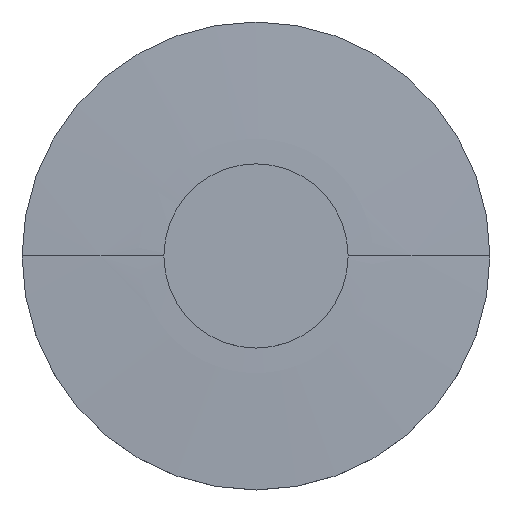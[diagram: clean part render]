
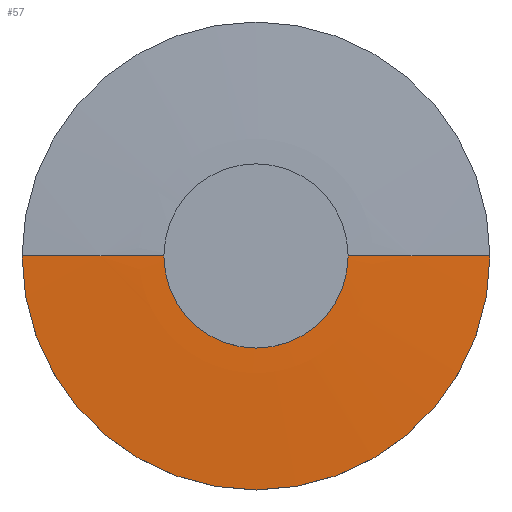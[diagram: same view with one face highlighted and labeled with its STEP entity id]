
A CAD part, top view. The second image highlights one B-rep face of the part: STEP entity #57.
In plain terms, the highlighted spherical face has radius 529.942 mm.
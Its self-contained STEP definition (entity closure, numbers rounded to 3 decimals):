
#57=ADVANCED_FACE('',(#71),#72,.T.);
#71=FACE_OUTER_BOUND('',#91,.T.);
#72=SPHERICAL_SURFACE('',#92,529.942);
#91=EDGE_LOOP('',(#124,#125,#126));
#92=AXIS2_PLACEMENT_3D('',#127,#128,#129);
#124=ORIENTED_EDGE('',*,*,#173,.T.);
#125=ORIENTED_EDGE('',*,*,#174,.T.);
#126=ORIENTED_EDGE('',*,*,#175,.T.);
#127=CARTESIAN_POINT('',(0.0,0.0,-522.442));
#128=DIRECTION('',(0.0,0.0,1.0));
#129=DIRECTION('',(1.0,0.0,0.0));
#173=EDGE_CURVE('',#189,#194,#195,.T.);
#174=EDGE_CURVE('',#194,#191,#196,.T.);
#175=EDGE_CURVE('',#191,#189,#197,.T.);
#189=VERTEX_POINT('',#215);
#191=VERTEX_POINT('',#218);
#194=VERTEX_POINT('',#222);
#195=CIRCLE('',#223,529.942);
#196=CIRCLE('',#224,529.942);
#197=CIRCLE('',#225,25.4);
#215=CARTESIAN_POINT('',(25.4,0.,6.891));
#218=CARTESIAN_POINT('',(-25.4,0.,6.891));
#222=CARTESIAN_POINT('',(0.0,0.0,7.5));
#223=AXIS2_PLACEMENT_3D('',#253,#254,#255);
#224=AXIS2_PLACEMENT_3D('',#256,#257,#258);
#225=AXIS2_PLACEMENT_3D('',#259,#260,#261);
#253=CARTESIAN_POINT('',(0.0,0.0,-522.442));
#254=DIRECTION('',(0.,-1.0,0.0));
#255=DIRECTION('',(0.0,0.0,1.0));
#256=CARTESIAN_POINT('',(0.0,0.0,-522.442));
#257=DIRECTION('',(0.,-1.0,0.0));
#258=DIRECTION('',(0.0,0.0,1.0));
#259=CARTESIAN_POINT('',(0.0,0.0,6.891));
#260=DIRECTION('',(0.0,0.0,1.0));
#261=DIRECTION('',(1.0,0.0,0.0));
